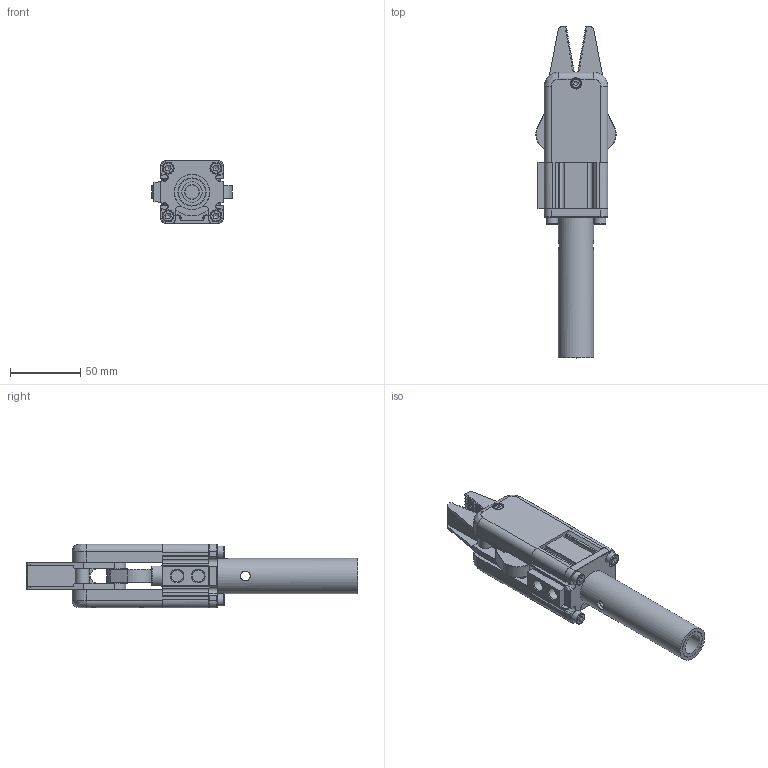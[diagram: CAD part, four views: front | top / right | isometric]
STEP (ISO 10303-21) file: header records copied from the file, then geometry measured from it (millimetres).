
FILE_DESCRIPTION(/* description */ (''),/* implementation_level */ '2;1');
FILE_NAME(/* name */ 'GRP32B.stp',/* time_stamp */ '2023-02-20T15:26:41+08:00',/* author */ (''),/* organization */ (''),/* preprocessor_version */ 'ST-DEVELOPER v16',/* originating_system */ 'SIEMENS PLM Software NX 10.0',/* authorisation */ '');
FILE_SCHEMA (('AUTOMOTIVE_DESIGN { 1 0 10303 214 3 1 1 1 }'));
Products named in the file (1): _model24
Bounding box: 56.95 x 235.81 x 45 mm (x, y, z)
Volume: 178127.1 mm3; surface area: 93307.4 mm2
Topology: 11 solids, 16 shells, 2046 faces, 3868 edges, 1884 vertices
Faces by surface type: plane 1781, cylinder 170, cone 86, torus 5, bspline 4
Full cylindrical faces by diameter (mm): 3.3 x1, 4 x1, 4.1 x1, 4.2 x8, 4.5 x1, 5 x4, 5.2 x4, 5.5 x4, 6 x7, 6.647 x1, 6.8 x1, 7 x5, 8 x6, 8.5 x4, 8.566 x2, 8.6 x2, 9 x8, 10 x5, 13 x1, 14 x1, 14.5 x1, 15 x2, 16 x2, 17 x12, 19.5 x2, 20 x1, 21 x1, 25 x1, 32 x1, 34 x2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
Entity records: 61675 total; most frequent: DIRECTION 8261, CARTESIAN_POINT 8213, ORIENTED_EDGE 7322, EDGE_CURVE 3661, LINE 3113, VECTOR 3113, AXIS2_PLACEMENT_3D 2574, EDGE_LOOP 2285
